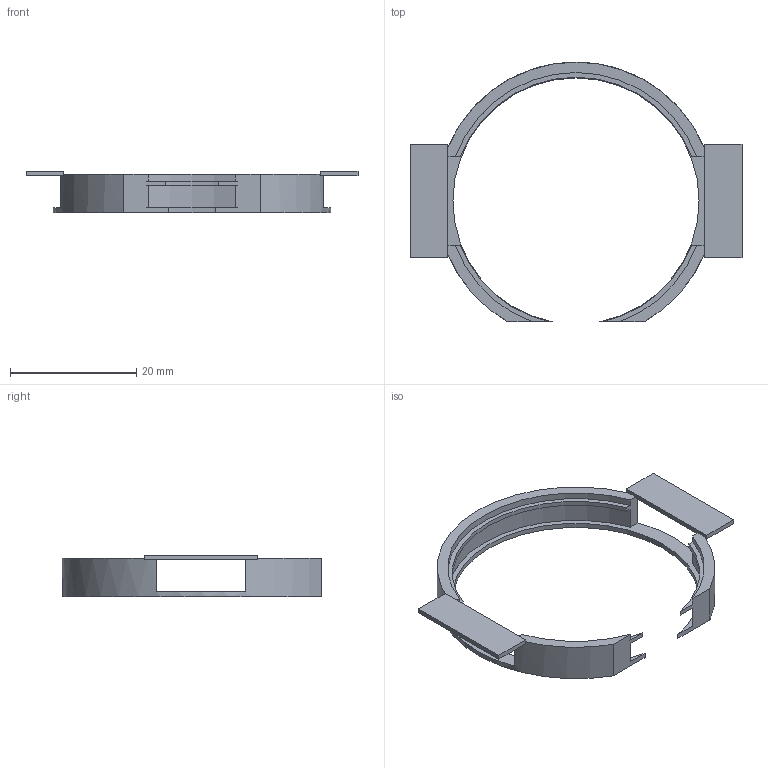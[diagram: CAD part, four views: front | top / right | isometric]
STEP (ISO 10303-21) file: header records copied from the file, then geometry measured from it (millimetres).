
FILE_DESCRIPTION(('Open CASCADE Model'),'2;1');
FILE_NAME('Open CASCADE Shape Model','2026-09-06T11:30:36',('Author'),( 'Open CASCADE'),'Open CASCADE STEP processor 7.7','Open CASCADE 7.7' ,'Unknown');
FILE_SCHEMA(('AUTOMOTIVE_DESIGN { 1 0 10303 214 1 1 1 1 }'));
Length unit declared in the file: millimetre
Products named in the file (1): Open CASCADE STEP translator 7.7 11
Bounding box: 52.6 x 41.15 x 6.65 mm (x, y, z)
Volume: 1186.9 mm3; surface area: 2392.6 mm2
Topology: 1 solids, 1 shells, 40 faces, 126 edges, 84 vertices
Faces by surface type: plane 29, cylinder 11
Entity records: 3119 total; most frequent: CARTESIAN_POINT 629, DIRECTION 469, LINE 318, VECTOR 318, ORIENTED_EDGE 252, PCURVE 252, DEFINITIONAL_REPRESENTATION 252, EDGE_CURVE 126
